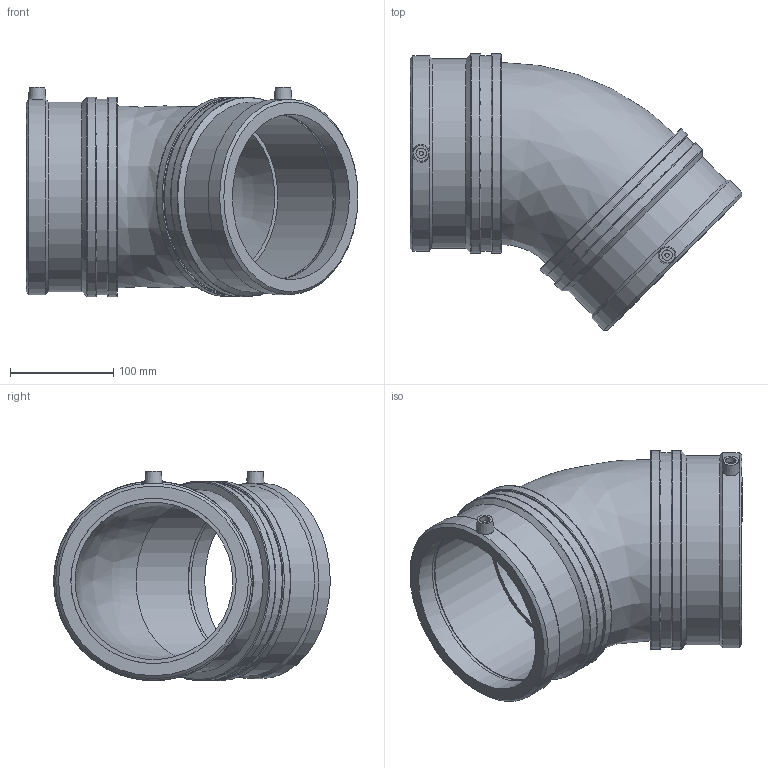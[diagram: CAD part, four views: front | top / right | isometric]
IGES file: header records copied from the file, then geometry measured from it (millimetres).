
Global section: file name: 460604160.ipt; native system: Autodesk Inventor 2015; preprocessor: unknown; author: KIM; date: 20171106.093440; units: millimetre
Bounding box: 320.99 x 267.46 x 202.5 mm (x, y, z)
Volume: 2023181.5 mm3; surface area: 351677.7 mm2
Topology: 1 solids, 1 shells, 58 faces, 133 edges, 91 vertices
Faces by surface type: plane 18, revolution 17, cylinder 12, cone 10, bspline 1
Full cylindrical faces by diameter (mm): 4 x2, 183.466 x2, 189.14 x2, 193 x4
